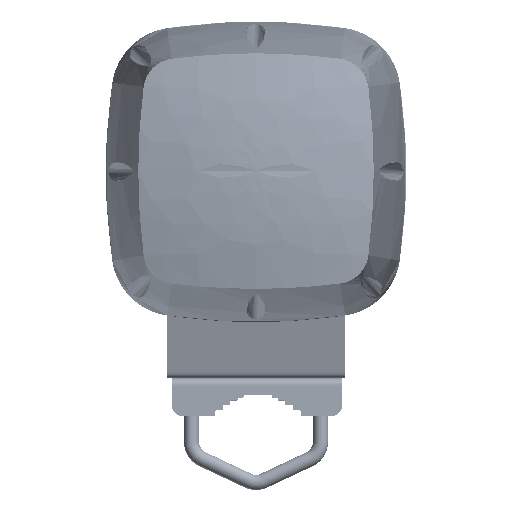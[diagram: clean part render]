
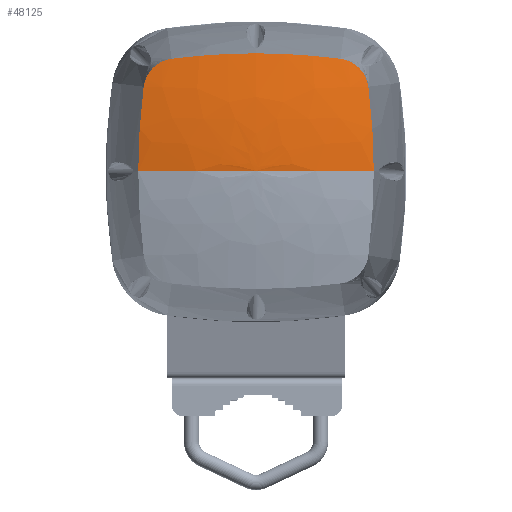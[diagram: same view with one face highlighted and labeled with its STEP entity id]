
A CAD part, top view. The second image highlights one B-rep face of the part: STEP entity #48125.
In plain terms, the highlighted free-form (B-spline) face has degree [2, 2] with [3, 5] control points.
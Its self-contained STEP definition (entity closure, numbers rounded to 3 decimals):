
#565=(
BOUNDED_SURFACE()
B_SPLINE_SURFACE(2,2,((#80270,#80271,#80272,#80273,#80274),(#80275,#80276,
#80277,#80278,#80279),(#80280,#80281,#80282,#80283,#80284)),
 .UNSPECIFIED.,.F.,.F.,.F.)
B_SPLINE_SURFACE_WITH_KNOTS((3,3),(3,2,3),(0.,126.5),(0.,198.706,
397.411),.UNSPECIFIED.)
GEOMETRIC_REPRESENTATION_ITEM()
RATIONAL_B_SPLINE_SURFACE(((1.,0.707,1.,0.707,1.),
(1.,0.707,1.,0.707,1.),(1.,0.707,1.,
0.707,1.)))
REPRESENTATION_ITEM('')
SURFACE()
);
#10997=FACE_OUTER_BOUND('',#13868,.T.);
#13868=EDGE_LOOP('',(#35970,#35971,#35972,#35973,#35974,#35975,#35976));
#16744=B_SPLINE_CURVE_WITH_KNOTS('',3,(#80287,#80288,#80289,#80290,#80291,
#80292,#80293,#80294,#80295,#80296,#80297,#80298,#80299,#80300),
 .UNSPECIFIED.,.F.,.F.,(4,2,2,2,2,2,4),(0.,0.068,0.675,
1.128,1.582,1.904,2.256),
 .UNSPECIFIED.);
#16745=B_SPLINE_CURVE_WITH_KNOTS('',3,(#80302,#80303,#80304,#80305,#80306,
#80307,#80308,#80309,#80310,#80311,#80312,#80313,#80314,#80315),
 .UNSPECIFIED.,.F.,.F.,(4,2,2,2,2,2,4),(0.,1.278,2.456,
4.468,6.481,8.7,8.937),
 .UNSPECIFIED.);
#16746=B_SPLINE_CURVE_WITH_KNOTS('',3,(#80317,#80318,#80319,#80320,#80321,
#80322,#80323,#80324,#80325,#80326,#80327,#80328,#80329,#80330),
 .UNSPECIFIED.,.F.,.F.,(4,2,2,2,2,2,4),(0.,0.068,0.675,
1.128,1.582,1.904,2.256),
 .UNSPECIFIED.);
#16747=B_SPLINE_CURVE_WITH_KNOTS('',3,(#80332,#80333,#80334,#80335,#80336,
#80337,#80338,#80339),.UNSPECIFIED.,.F.,.F.,(4,2,2,4),(0.,2.235,
3.365,4.469),.UNSPECIFIED.);
#16748=B_SPLINE_CURVE_WITH_KNOTS('',2,(#80341,#80342,#80343),
 .UNSPECIFIED.,.F.,.F.,(3,3),(-60.181,0.),.UNSPECIFIED.);
#16749=B_SPLINE_CURVE_WITH_KNOTS('',2,(#80345,#80346,#80347),
 .UNSPECIFIED.,.F.,.F.,(3,3),(0.,60.181),.UNSPECIFIED.);
#16750=B_SPLINE_CURVE_WITH_KNOTS('',3,(#80348,#80349,#80350,#80351,#80352,
#80353,#80354,#80355,#80356,#80357),.UNSPECIFIED.,.F.,.F.,(4,2,2,2,4),(0.,
1.104,2.233,4.187,4.468),
 .UNSPECIFIED.);
#21365=VERTEX_POINT('',#80285);
#21366=VERTEX_POINT('',#80286);
#21367=VERTEX_POINT('',#80301);
#21368=VERTEX_POINT('',#80316);
#21369=VERTEX_POINT('',#80331);
#21370=VERTEX_POINT('',#80340);
#21371=VERTEX_POINT('',#80344);
#26749=EDGE_CURVE('',#21365,#21366,#16744,.T.);
#26750=EDGE_CURVE('',#21366,#21367,#16745,.T.);
#26751=EDGE_CURVE('',#21367,#21368,#16746,.T.);
#26752=EDGE_CURVE('',#21368,#21369,#16747,.T.);
#26753=EDGE_CURVE('',#21369,#21370,#16748,.T.);
#26754=EDGE_CURVE('',#21370,#21371,#16749,.T.);
#26755=EDGE_CURVE('',#21371,#21365,#16750,.T.);
#35970=ORIENTED_EDGE('',*,*,#26749,.T.);
#35971=ORIENTED_EDGE('',*,*,#26750,.T.);
#35972=ORIENTED_EDGE('',*,*,#26751,.T.);
#35973=ORIENTED_EDGE('',*,*,#26752,.T.);
#35974=ORIENTED_EDGE('',*,*,#26753,.T.);
#35975=ORIENTED_EDGE('',*,*,#26754,.T.);
#35976=ORIENTED_EDGE('',*,*,#26755,.T.);
#48125=ADVANCED_FACE('',(#10997),#565,.T.);
#80270=CARTESIAN_POINT('Ctrl Pts',(0.,0.,
215.));
#80271=CARTESIAN_POINT('Ctrl Pts',(0.,0.,
215.));
#80272=CARTESIAN_POINT('Ctrl Pts',(0.,0.,
215.));
#80273=CARTESIAN_POINT('Ctrl Pts',(0.,0.,
215.));
#80274=CARTESIAN_POINT('Ctrl Pts',(0.,0.,
215.));
#80275=CARTESIAN_POINT('Ctrl Pts',(67.,0.,215.));
#80276=CARTESIAN_POINT('Ctrl Pts',(67.,67.,215.));
#80277=CARTESIAN_POINT('Ctrl Pts',(0.,67.,
215.));
#80278=CARTESIAN_POINT('Ctrl Pts',(-67.,67.,215.));
#80279=CARTESIAN_POINT('Ctrl Pts',(-67.,0.,215.));
#80280=CARTESIAN_POINT('Ctrl Pts',(126.5,0.,187.));
#80281=CARTESIAN_POINT('Ctrl Pts',(126.5,126.5,187.));
#80282=CARTESIAN_POINT('Ctrl Pts',(0.,126.5,
187.));
#80283=CARTESIAN_POINT('Ctrl Pts',(-126.5,126.5,187.));
#80284=CARTESIAN_POINT('Ctrl Pts',(-126.5,0.,187.));
#80285=CARTESIAN_POINT('',(59.197,44.443,205.882));
#80286=CARTESIAN_POINT('',(44.439,59.198,205.883));
#80287=CARTESIAN_POINT('Ctrl Pts',(59.198,44.444,205.882));
#80288=CARTESIAN_POINT('Ctrl Pts',(59.169,44.666,205.854));
#80289=CARTESIAN_POINT('Ctrl Pts',(59.136,44.888,205.826));
#80290=CARTESIAN_POINT('Ctrl Pts',(58.763,47.092,205.56));
#80291=CARTESIAN_POINT('Ctrl Pts',(58.079,49.005,205.381));
#80292=CARTESIAN_POINT('Ctrl Pts',(56.323,52.066,205.19));
#80293=CARTESIAN_POINT('Ctrl Pts',(55.402,53.27,205.149));
#80294=CARTESIAN_POINT('Ctrl Pts',(53.266,55.406,205.149));
#80295=CARTESIAN_POINT('Ctrl Pts',(52.061,56.327,205.191));
#80296=CARTESIAN_POINT('Ctrl Pts',(49.821,57.611,205.33));
#80297=CARTESIAN_POINT('Ctrl Pts',(48.843,58.054,205.408));
#80298=CARTESIAN_POINT('Ctrl Pts',(46.728,58.784,205.61));
#80299=CARTESIAN_POINT('Ctrl Pts',(45.592,59.05,205.737));
#80300=CARTESIAN_POINT('Ctrl Pts',(44.439,59.198,205.883));
#80301=CARTESIAN_POINT('',(-44.443,59.197,205.882));
#80302=CARTESIAN_POINT('Ctrl Pts',(44.439,59.198,205.883));
#80303=CARTESIAN_POINT('Ctrl Pts',(40.247,59.738,206.414));
#80304=CARTESIAN_POINT('Ctrl Pts',(36.037,60.203,206.868));
#80305=CARTESIAN_POINT('Ctrl Pts',(27.917,60.95,207.596));
#80306=CARTESIAN_POINT('Ctrl Pts',(24.01,61.243,207.88));
#80307=CARTESIAN_POINT('Ctrl Pts',(13.41,61.857,208.476));
#80308=CARTESIAN_POINT('Ctrl Pts',(6.705,62.052,208.663));
#80309=CARTESIAN_POINT('Ctrl Pts',(-6.709,62.051,208.663));
#80310=CARTESIAN_POINT('Ctrl Pts',(-13.413,61.857,208.475));
#80311=CARTESIAN_POINT('Ctrl Pts',(-27.473,61.041,207.686));
#80312=CARTESIAN_POINT('Ctrl Pts',(-34.816,60.379,207.043));
#80313=CARTESIAN_POINT('Ctrl Pts',(-42.887,59.394,206.077));
#80314=CARTESIAN_POINT('Ctrl Pts',(-43.665,59.296,205.981));
#80315=CARTESIAN_POINT('Ctrl Pts',(-44.443,59.196,205.883));
#80316=CARTESIAN_POINT('',(-59.198,44.439,205.883));
#80317=CARTESIAN_POINT('Ctrl Pts',(-44.444,59.198,205.882));
#80318=CARTESIAN_POINT('Ctrl Pts',(-44.666,59.169,205.854));
#80319=CARTESIAN_POINT('Ctrl Pts',(-44.888,59.136,205.826));
#80320=CARTESIAN_POINT('Ctrl Pts',(-47.092,58.763,205.56));
#80321=CARTESIAN_POINT('Ctrl Pts',(-49.005,58.079,205.381));
#80322=CARTESIAN_POINT('Ctrl Pts',(-52.066,56.323,205.19));
#80323=CARTESIAN_POINT('Ctrl Pts',(-53.27,55.402,205.149));
#80324=CARTESIAN_POINT('Ctrl Pts',(-55.406,53.266,205.149));
#80325=CARTESIAN_POINT('Ctrl Pts',(-56.327,52.061,205.191));
#80326=CARTESIAN_POINT('Ctrl Pts',(-57.611,49.821,205.33));
#80327=CARTESIAN_POINT('Ctrl Pts',(-58.054,48.843,205.408));
#80328=CARTESIAN_POINT('Ctrl Pts',(-58.784,46.728,205.61));
#80329=CARTESIAN_POINT('Ctrl Pts',(-59.05,45.592,205.737));
#80330=CARTESIAN_POINT('Ctrl Pts',(-59.198,44.439,205.883));
#80331=CARTESIAN_POINT('',(-62.052,0.,208.663));
#80332=CARTESIAN_POINT('Ctrl Pts',(-59.198,44.439,205.883));
#80333=CARTESIAN_POINT('Ctrl Pts',(-60.143,37.107,206.812));
#80334=CARTESIAN_POINT('Ctrl Pts',(-60.857,29.722,207.506));
#80335=CARTESIAN_POINT('Ctrl Pts',(-61.576,18.55,208.203));
#80336=CARTESIAN_POINT('Ctrl Pts',(-61.757,14.792,208.378));
#80337=CARTESIAN_POINT('Ctrl Pts',(-61.993,7.356,208.606));
#80338=CARTESIAN_POINT('Ctrl Pts',(-62.052,3.678,208.663));
#80339=CARTESIAN_POINT('Ctrl Pts',(-62.052,0.,
208.663));
#80340=CARTESIAN_POINT('',(0.,0.,215.));
#80341=CARTESIAN_POINT('Ctrl Pts',(-62.052,0.,
208.663));
#80342=CARTESIAN_POINT('Ctrl Pts',(-31.874,0.,
215.));
#80343=CARTESIAN_POINT('Ctrl Pts',(0.,0.,215.));
#80344=CARTESIAN_POINT('',(62.052,0.,208.663));
#80345=CARTESIAN_POINT('Ctrl Pts',(0.,0.,215.));
#80346=CARTESIAN_POINT('Ctrl Pts',(31.874,0.,
215.));
#80347=CARTESIAN_POINT('Ctrl Pts',(62.052,0.,
208.663));
#80348=CARTESIAN_POINT('Ctrl Pts',(62.052,0.,
208.663));
#80349=CARTESIAN_POINT('Ctrl Pts',(62.051,3.678,208.663));
#80350=CARTESIAN_POINT('Ctrl Pts',(61.993,7.356,208.606));
#80351=CARTESIAN_POINT('Ctrl Pts',(61.756,14.794,208.378));
#80352=CARTESIAN_POINT('Ctrl Pts',(61.575,18.552,208.203));
#80353=CARTESIAN_POINT('Ctrl Pts',(60.916,28.789,207.565));
#80354=CARTESIAN_POINT('Ctrl Pts',(60.318,35.249,206.983));
#80355=CARTESIAN_POINT('Ctrl Pts',(59.431,42.595,206.113));
#80356=CARTESIAN_POINT('Ctrl Pts',(59.315,43.519,206.));
#80357=CARTESIAN_POINT('Ctrl Pts',(59.196,44.443,205.883));
